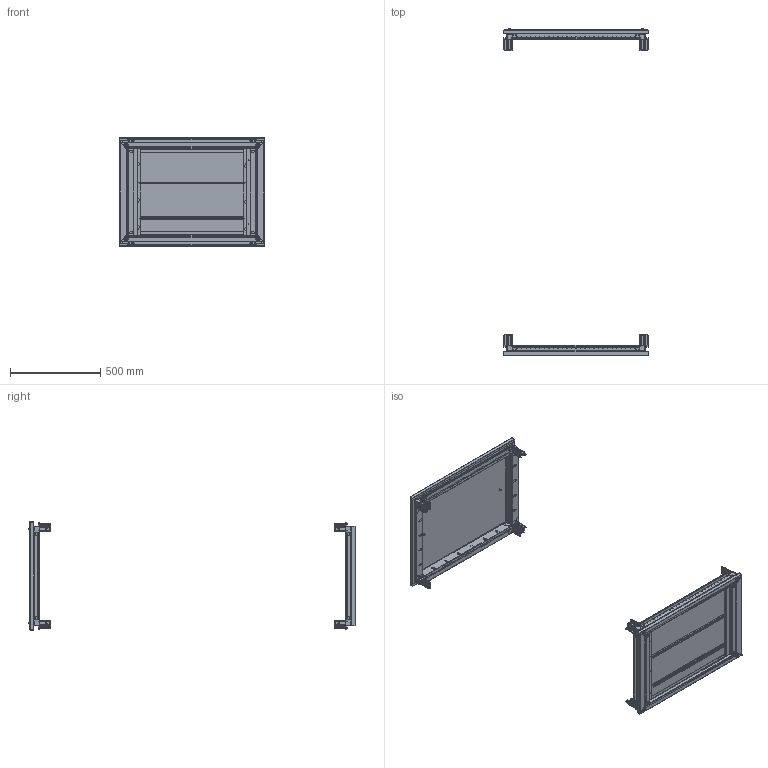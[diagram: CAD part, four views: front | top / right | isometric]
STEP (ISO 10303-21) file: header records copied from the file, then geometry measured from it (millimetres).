
FILE_DESCRIPTION(('CAx-IF Rec.Pracs.---Model Styling and Organization---1.2---2011-12-15','CAx-IF Rec.Pracs.---Geometric and Assembly Validation Properties---4.1---2014-06-16','CAx-IF Rec.Pracs.---PMI Polyline Presentation---2.0---2013-05-24'),'2;1');
FILE_NAME('R5GTB86 (1800).stp','2021-05-06T06:06:36+03:00',(''),(''),'STEP Interface 4.4 by CT CoreTechnologie','3D_Evolution4.4 by CT CoreTechnologie','');
FILE_SCHEMA(('AUTOMOTIVE_DESIGN { 1 0 10303 214 1 1 1 1 }'));
Length unit declared in the file: millimetre
Products named in the file (21): R5KTB86; CBA86; AC00C191; Ac00c561; QB04C028; QB01T053; QB01C039; AC00C469S-OLD; AC00C469D-OLD; QB01C032; QB04T009; QB04C020; QB04C015; GUARNIZIONE  TETTI_800x600; QB04C026; A0200018; CTE86; A0500003; QB03T087; AC00C061_AC00C061; QB03C087_Piegato
Assembly tree (40 placements, depth 4):
  R5KTB86
    CBA86
      AC00C191  x2
      Ac00c561  x6
      QB04C028  x2
      QB01T053
        QB01C039  x2
        AC00C469S-OLD  x2
        AC00C469D-OLD  x2
        QB01C032  x2
      QB04T009
        QB04C020  x2
        QB04C015  x2
        GUARNIZIONE  TETTI_800x600
      QB04C026
      A0200018  x2
    CTE86
      A0500003  x4
      QB01T053
        QB01C039  x2
        AC00C469S-OLD  x2
        AC00C469D-OLD  x2
        QB01C032  x2
      QB03T087
        AC00C061_AC00C061  x2
        GUARNIZIONE  TETTI_800x600
        QB03C087_Piegato
Bounding box: 800.5 x 1806.6 x 599 mm (x, y, z)
Surface area: 3959686.5 mm2 (no closed solid volume)
Topology: 0 solids, 78 shells, 7110 faces, 18500 edges, 11940 vertices
Faces by surface type: plane 3910, cylinder 2394, bspline 806
Entity records: 66998 total; most frequent: CARTESIAN_POINT 15722, ORIENTED_EDGE 10452, DIRECTION 10237, EDGE_CURVE 5226, VECTOR 3631, LINE 3631, VERTEX_POINT 3419, AXIS2_PLACEMENT_3D 3303
